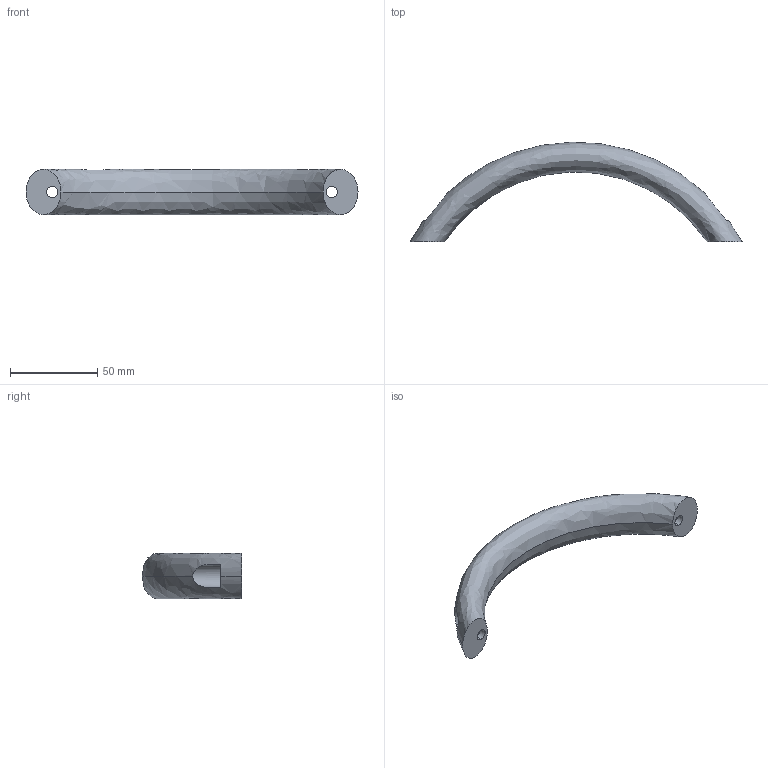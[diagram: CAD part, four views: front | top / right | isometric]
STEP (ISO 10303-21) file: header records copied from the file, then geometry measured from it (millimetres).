
FILE_DESCRIPTION (( 'STEP AP203' ), '1' );
FILE_NAME ('gn565-4_b_160-m6.step', '2010-11-02T08:21:19', ( '_' ), ( '_' ), 'SwSTEP 2.0', 'SolidWorks 2010', '' );
FILE_SCHEMA (( 'CONFIG_CONTROL_DESIGN' ));
Length unit declared in the file: millimetre
Products named in the file (1): gn565-4_b_160-m6
Bounding box: 190 x 56.96 x 26 mm (x, y, z)
Volume: 67737.8 mm3; surface area: 15865.4 mm2
Topology: 1 solids, 1 shells, 22 faces, 54 edges, 36 vertices
Faces by surface type: cylinder 10, plane 10, bspline 2
Entity records: 1993 total; most frequent: CARTESIAN_POINT 1411, ORIENTED_EDGE 108, DIRECTION 94, EDGE_CURVE 54, AXIS2_PLACEMENT_3D 39, VERTEX_POINT 36, EDGE_LOOP 28, ADVANCED_FACE 22
